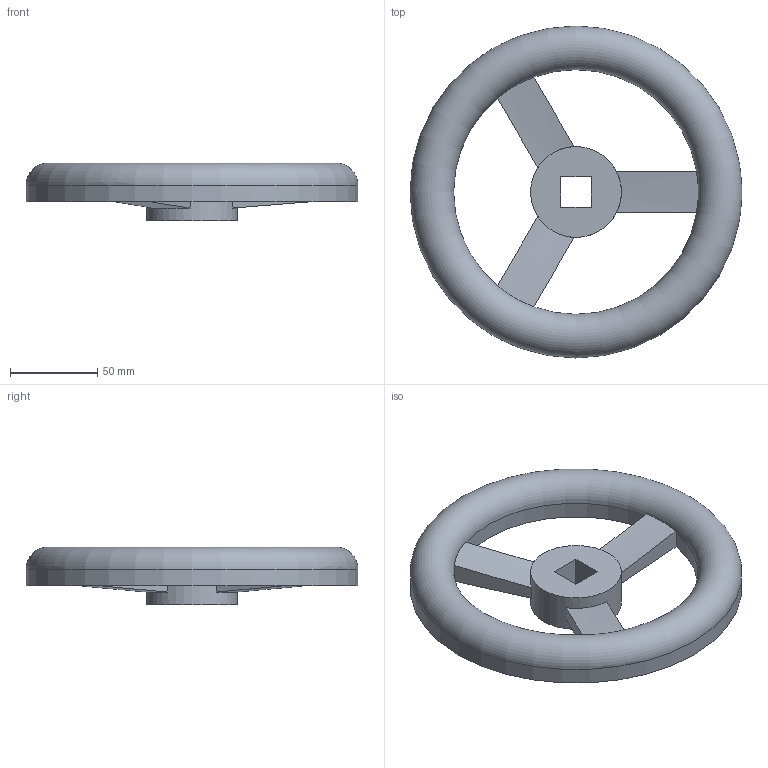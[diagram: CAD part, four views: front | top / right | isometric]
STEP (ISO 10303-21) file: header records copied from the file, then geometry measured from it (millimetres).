
FILE_DESCRIPTION( ( 'STEP AP203' ), '1' );
FILE_NAME( 'p:/temp/worker_173/temp/exporttempdir_812_84_EfkjM/format_0/5007610 7800 DN65-80 (400).stp', '2021-01-13T08:47:53', ( 'License CC BY-ND 4.0' ), ( 'CADENAS' ), ' ', 'PARTsolutions', ' ' );
FILE_SCHEMA( ( 'CONFIG_CONTROL_DESIGN' ) );
Length unit declared in the file: millimetre
Products named in the file (1): _5007610 7800 DN65-80 (400)
Bounding box: 190 x 190 x 32.99 mm (x, y, z)
Volume: 167714.8 mm3; surface area: 74910.5 mm2
Topology: 1 solids, 1 shells, 32 faces, 81 edges, 49 vertices
Faces by surface type: plane 14, cylinder 10, cone 6, torus 2
Full cylindrical faces by diameter (mm): 52 x1, 147.2 x1, 182.8 x1, 190 x1
Entity records: 1012 total; most frequent: CARTESIAN_POINT 234, DIRECTION 154, ORIENTED_EDGE 142, EDGE_CURVE 71, AXIS2_PLACEMENT_3D 62, VERTEX_POINT 46, EDGE_LOOP 45, FACE_OUTER_BOUND 38
